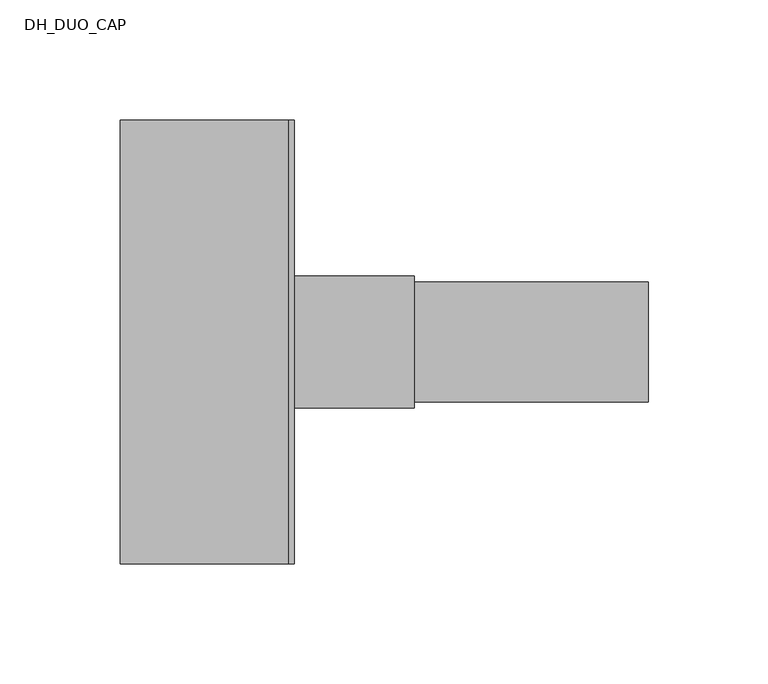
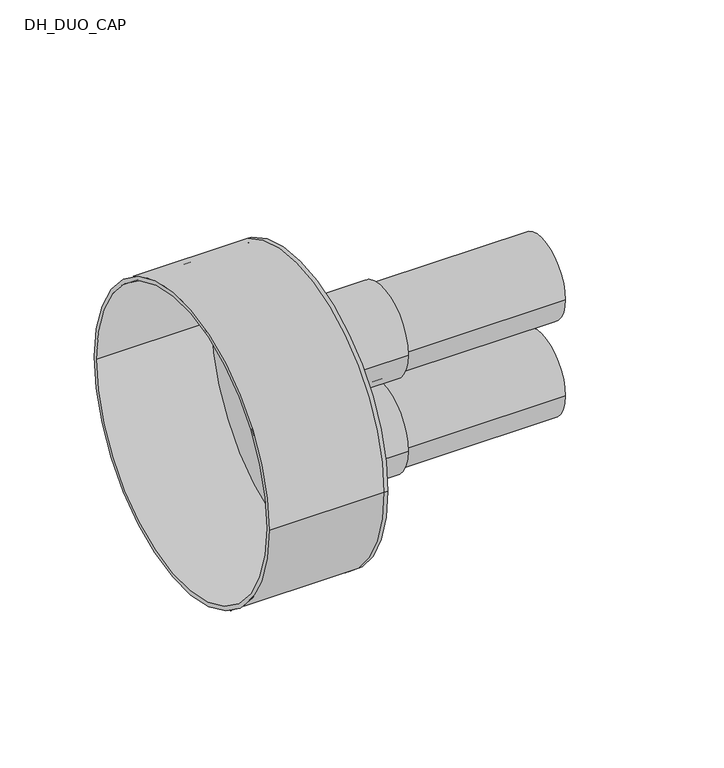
"""IFC4 building model written with IfcOpenShell, lengths in millimetres: pipe fitting geometry, DH_DUO_CAP : INSULPEX DUO + 11 Heating - Rubber Cap."""

from ifc_helpers import new_model, si_unit, point, frame, frame_2d, origin, place, context, project, spatial, polyline, circle_curve, trimmed, segment, composite_curve, outline, extrude, source, transform, mapped, element, save
from ifc_brep_helpers import plane_surface, cylinder_surface, revolved_surface, advanced_brep


def dh_duo_cap_5ac59d29(model_context):
    return source(origin(), model_context, "Body", "SolidModel", [
        extrude(outline(composite_curve([segment(trimmed(circle_curve(frame_2d((0.0, -31.0)), 25.0), [point((-25.0, -31.0))], [point((25.0, -31.0))], False, "CARTESIAN"), True, "CONTINUOUS"), segment(trimmed(circle_curve(frame_2d((0.0, -31.0)), 25.0), [point((25.0, -31.0))], [point((-25.0, -31.0))], False, "CARTESIAN"), True, "CONTINUOUS")], self_intersect=False), holes=[composite_curve([segment(trimmed(circle_curve(frame_2d((0.0, -31.0)), 20.4), [point((-20.4, -31.0))], [point((20.4, -31.0))], True, "CARTESIAN"), True, "CONTINUOUS"), segment(trimmed(circle_curve(frame_2d((0.0, -31.0)), 20.4), [point((20.4, -31.0))], [point((-20.4, -31.0))], True, "CARTESIAN"), True, "CONTINUOUS")], self_intersect=False)]), frame((0.0, 0.0, 0.0), z_axis=(1.0, 0.0, 0.0), x_axis=(0.0, 1.0, 0.0)), (0.0, 0.0, 1.0), 150.0),
        extrude(outline(composite_curve([segment(trimmed(circle_curve(frame_2d((0.0, 31.0)), 25.0), [point((-25.0, 31.0))], [point((25.0, 31.0))], False, "CARTESIAN"), True, "CONTINUOUS"), segment(trimmed(circle_curve(frame_2d((0.0, 31.0)), 25.0), [point((25.0, 31.0))], [point((-25.0, 31.0))], False, "CARTESIAN"), True, "CONTINUOUS")], self_intersect=False), holes=[composite_curve([segment(trimmed(circle_curve(frame_2d((0.0, 31.0)), 20.4), [point((-20.4, 31.0))], [point((20.4, 31.0))], True, "CARTESIAN"), True, "CONTINUOUS"), segment(trimmed(circle_curve(frame_2d((0.0, 31.0)), 20.4), [point((20.4, 31.0))], [point((-20.4, 31.0))], True, "CARTESIAN"), True, "CONTINUOUS")], self_intersect=False)]), frame((0.0, 0.0, 0.0), z_axis=(1.0, 0.0, 0.0), x_axis=(0.0, 1.0, 0.0)), (0.0, 0.0, 1.0), 150.0),
        advanced_brep(
        [(-70.0, -92.5, 0.0), (-70.0, 92.5, 0.0), (-70.0, -90.0, 0.0), (-70.0, 90.0, 0.0), (0.0, -90.0, 0.0), (0.0, 90.0, 0.0), (0.0, -92.5, 0.0), (0.0, 92.5, 0.0), (0.0, 25.0, 31.0), (0.0, -25.0, 31.0), (0.0, 25.0, -31.0), (0.0, -25.0, -31.0), (2.5, -92.5, 0.0), (2.5, 92.5, 0.0), (2.5, -25.0, 31.0), (2.5, 25.0, 31.0), (2.5, -25.0, -31.0), (2.5, 25.0, -31.0)],
        [
            (0, 1, circle_curve(frame((-70.0, 0.0, 0.0), z_axis=(-1.0, 0.0, 0.0), x_axis=(0.0, 1.0, 0.0)), 92.5)),
            (1, 0, circle_curve(frame((-70.0, 0.0, 0.0), z_axis=(-1.0, 0.0, 0.0), x_axis=(0.0, 1.0, 0.0)), 92.5)),
            (2, 3, circle_curve(frame((-70.0, 0.0, 0.0), z_axis=(1.0, 0.0, 0.0), x_axis=(0.0, 1.0, 0.0)), 90.0)),
            (3, 2, circle_curve(frame((-70.0, 0.0, 0.0), z_axis=(1.0, 0.0, 0.0), x_axis=(0.0, 1.0, 0.0)), 90.0)),
            (2, 4),
            (4, 5, circle_curve(frame((0.0, 0.0, 0.0), z_axis=(1.0, 0.0, 0.0), x_axis=(0.0, 1.0, 0.0)), 90.0)),
            (5, 3),
            (5, 4, circle_curve(frame((0.0, 0.0, 0.0), z_axis=(1.0, 0.0, 0.0), x_axis=(0.0, 1.0, 0.0)), 90.0)),
            (0, 6),
            (6, 7, circle_curve(frame((0.0, 0.0, 0.0), z_axis=(-1.0, 0.0, 0.0), x_axis=(0.0, 1.0, 0.0)), 92.5)),
            (7, 1),
            (7, 6, circle_curve(frame((0.0, 0.0, 0.0), z_axis=(-1.0, 0.0, 0.0), x_axis=(0.0, 1.0, 0.0)), 92.5)),
            (8, 9, circle_curve(frame((0.0, 0.0, 31.0), z_axis=(1.0, 0.0, 0.0), x_axis=(0.0, 1.0, 0.0)), 25.0)),
            (9, 8, circle_curve(frame((0.0, 0.0, 31.0), z_axis=(1.0, 0.0, 0.0), x_axis=(0.0, 1.0, 0.0)), 25.0)),
            (10, 11, circle_curve(frame((0.0, 0.0, -31.0), z_axis=(1.0, 0.0, 0.0), x_axis=(0.0, 1.0, 0.0)), 25.0)),
            (11, 10, circle_curve(frame((0.0, 0.0, -31.0), z_axis=(1.0, 0.0, 0.0), x_axis=(0.0, 1.0, 0.0)), 25.0)),
            (12, 13, circle_curve(frame((2.5, 0.0, 0.0), z_axis=(1.0, 0.0, 0.0), x_axis=(0.0, 1.0, 0.0)), 92.5)),
            (13, 12, circle_curve(frame((2.5, 0.0, 0.0), z_axis=(1.0, 0.0, 0.0), x_axis=(0.0, 1.0, 0.0)), 92.5)),
            (14, 15, circle_curve(frame((2.5, 0.0, 31.0), z_axis=(-1.0, 0.0, 0.0), x_axis=(0.0, 1.0, 0.0)), 25.0)),
            (15, 14, circle_curve(frame((2.5, 0.0, 31.0), z_axis=(-1.0, 0.0, 0.0), x_axis=(0.0, 1.0, 0.0)), 25.0)),
            (16, 17, circle_curve(frame((2.5, 0.0, -31.0), z_axis=(-1.0, 0.0, 0.0), x_axis=(0.0, 1.0, 0.0)), 25.0)),
            (17, 16, circle_curve(frame((2.5, 0.0, -31.0), z_axis=(-1.0, 0.0, 0.0), x_axis=(0.0, 1.0, 0.0)), 25.0)),
            (13, 7),
            (6, 12),
            (8, 15),
            (14, 9),
            (10, 17),
            (16, 11),
        ],
        [
            plane_surface(frame((-70.0, 0.0, 0.0), z_axis=(-1.0, 0.0, 0.0), x_axis=(0.0, 0.0, 1.0))),
            revolved_surface(polyline([(0.0, 90.0, 0.0), (-70.0, 90.0, 0.0)]), (-70.0, 0.0, 0.0), (1.0, 0.0, 0.0)),
            cylinder_surface(frame((-70.0, 0.0, 0.0), z_axis=(-1.0, 0.0, 0.0), x_axis=(0.0, 1.0, 0.0)), 92.5),
            plane_surface(frame((0.0, 0.0, 0.0), z_axis=(-1.0, 0.0, 0.0), x_axis=(0.0, 0.0, 1.0))),
            plane_surface(frame((2.5, 0.0, 0.0), z_axis=(1.0, 0.0, 0.0), x_axis=(0.0, 0.0, 1.0))),
            cylinder_surface(frame((0.0, 0.0, 0.0), z_axis=(-1.0, 0.0, 0.0), x_axis=(0.0, 1.0, 0.0)), 92.5),
            revolved_surface(polyline([(0.0, 25.0, 31.0), (2.5, 25.0, 31.0)]), (0.0, 0.0, 31.0), (-1.0, 0.0, 0.0)),
            revolved_surface(polyline([(0.0, 25.0, -31.0), (2.5, 25.0, -31.0)]), (0.0, 0.0, -31.0), (-1.0, 0.0, 0.0)),
        ],
        [
            (0, [[1, 2], [3, 4]]),
            (1, [[-3, 5, 6, 7]]),
            (1, [[-4, -7, 8, -5]]),
            (2, [[-1, 9, 10, 11]]),
            (2, [[-2, -11, 12, -9]]),
            (3, [[-6, -8], [13, 14], [15, 16]]),
            (4, [[17, 18], [19, 20], [21, 22]]),
            (5, [[-18, 23, -10, 24]]),
            (5, [[-17, -24, -12, -23]]),
            (6, [[25, -19, 26, -13]]),
            (6, [[-25, -14, -26, -20]]),
            (7, [[27, -21, 28, -15]]),
            (7, [[-27, -16, -28, -22]]),
        ],
    ),
        extrude(outline(composite_curve([segment(trimmed(circle_curve(frame_2d((0.0, -31.0)), 27.5), [point((-27.5, -31.0))], [point((27.5, -31.0))], False, "CARTESIAN"), True, "CONTINUOUS"), segment(trimmed(circle_curve(frame_2d((0.0, -31.0)), 27.5), [point((27.5, -31.0))], [point((-27.5, -31.0))], False, "CARTESIAN"), True, "CONTINUOUS")], self_intersect=False), holes=[composite_curve([segment(trimmed(circle_curve(frame_2d((0.0, -31.0)), 25.0), [point((-25.0, -31.0))], [point((25.0, -31.0))], True, "CARTESIAN"), True, "CONTINUOUS"), segment(trimmed(circle_curve(frame_2d((0.0, -31.0)), 25.0), [point((25.0, -31.0))], [point((-25.0, -31.0))], True, "CARTESIAN"), True, "CONTINUOUS")], self_intersect=False)]), frame((2.5, 0.0, 0.0), z_axis=(1.0, 0.0, 0.0), x_axis=(0.0, 1.0, 0.0)), (0.0, 0.0, 1.0), 50.0),
        extrude(outline(composite_curve([segment(trimmed(circle_curve(frame_2d((0.0, 31.0)), 27.5), [point((-27.5, 31.0))], [point((27.5, 31.0))], False, "CARTESIAN"), True, "CONTINUOUS"), segment(trimmed(circle_curve(frame_2d((0.0, 31.0)), 27.5), [point((27.5, 31.0))], [point((-27.5, 31.0))], False, "CARTESIAN"), True, "CONTINUOUS")], self_intersect=False), holes=[composite_curve([segment(trimmed(circle_curve(frame_2d((0.0, 31.0)), 25.0), [point((-25.0, 31.0))], [point((25.0, 31.0))], True, "CARTESIAN"), True, "CONTINUOUS"), segment(trimmed(circle_curve(frame_2d((0.0, 31.0)), 25.0), [point((25.0, 31.0))], [point((-25.0, 31.0))], True, "CARTESIAN"), True, "CONTINUOUS")], self_intersect=False)]), frame((2.5, 0.0, 0.0), z_axis=(1.0, 0.0, 0.0), x_axis=(0.0, 1.0, 0.0)), (0.0, 0.0, 1.0), 50.0),
    ])


if __name__ == "__main__":
    model = new_model("IFC4")
    model_context = context("Model", 3, world=origin())
    ifc_project = project(units=[si_unit("LENGTHUNIT", "METRE", prefix="MILLI")], contexts=[model_context])
    site = spatial("IfcSite", under=ifc_project)
    building = spatial("IfcBuilding", under=site)
    placement = place(None, origin())
    dh_duo_cap_shape = dh_duo_cap_5ac59d29(model_context)
    element("IfcPipeFitting", 1, ObjectType="DH_DUO_CAP : INSULPEX DUO + 11 Heating - Rubber Cap", at=placement, inside=building, context=model_context, shape_type="MappedRepresentation", body=[
        mapped(dh_duo_cap_shape, transform((0.0, 0.0, 0.0), x_axis=(1.0, 0.0, 0.0), y_axis=(0.0, 1.0, 0.0), z_axis=(0.0, 0.0, 1.0))),
    ])
    save(model, "model.ifc")
